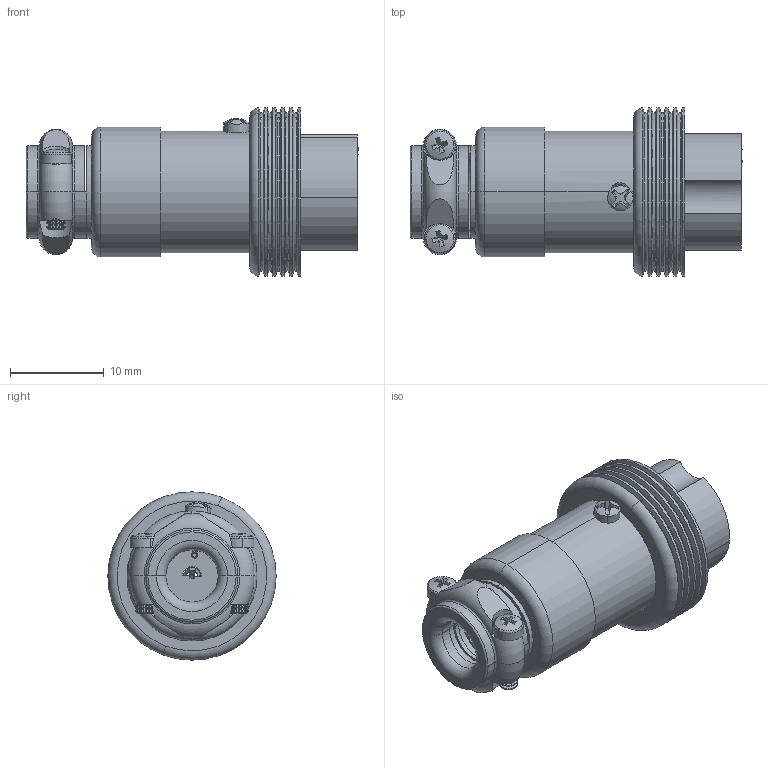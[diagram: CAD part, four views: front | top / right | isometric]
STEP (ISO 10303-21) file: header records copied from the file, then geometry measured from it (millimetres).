
FILE_DESCRIPTION (( 'STEP AP214' ), '1' );
FILE_NAME ('PLT-168-P-R.STEP', '2025-12-19T09:05:15', ( '' ), ( '' ), 'SwSTEP 2.0', 'SolidWorks 2021', '' );
FILE_SCHEMA (( 'AUTOMOTIVE_DESIGN' ));
Length unit declared in the file: millimetre
Products named in the file (1): PLT-168-P-R
Bounding box: 35.5 x 18 x 18 mm (x, y, z)
Volume: 3189.4 mm3; surface area: 7023.2 mm2
Topology: 18 solids, 18 shells, 1189 faces, 2949 edges, 1836 vertices
Faces by surface type: plane 424, cylinder 345, cone 265, bspline 123, torus 30, sphere 2
Entity records: 58636 total; most frequent: CARTESIAN_POINT 18107, ORIENTED_EDGE 5898, DIRECTION 5359, EDGE_CURVE 2949, AXIS2_PLACEMENT_3D 1963, VERTEX_POINT 1836, VECTOR 1433, LINE 1433
